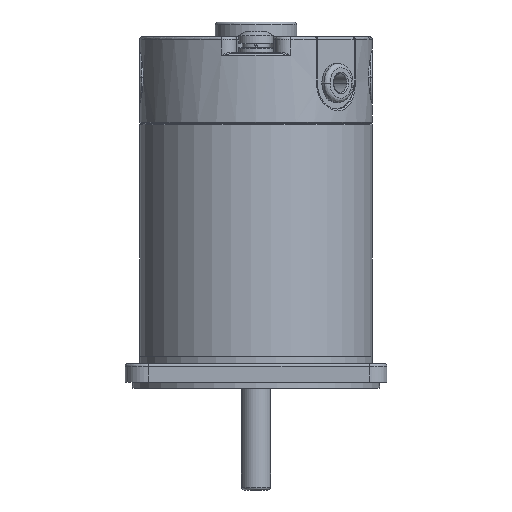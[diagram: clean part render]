
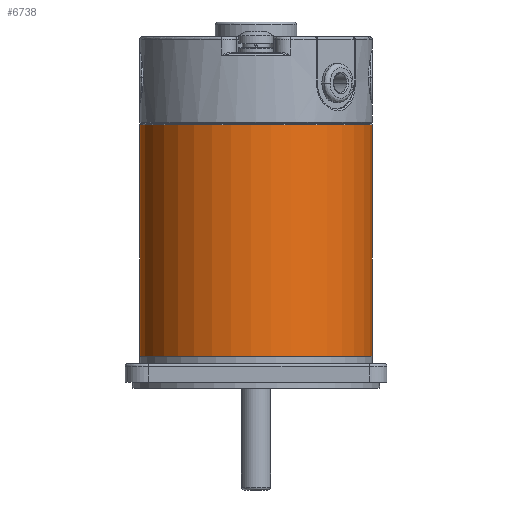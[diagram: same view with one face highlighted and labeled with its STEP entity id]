
A CAD part, left-side view. The second image highlights one B-rep face of the part: STEP entity #6738.
In plain terms, the highlighted cylindrical face has radius 40 mm (diameter 80 mm), a partial arc.
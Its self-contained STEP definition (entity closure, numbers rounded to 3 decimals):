
#502 = DIRECTION ( 'NONE',  ( 0., -1., 0. ) ) ;
#1271 = VERTEX_POINT ( 'NONE', #11905 ) ;
#1887 = CIRCLE ( 'NONE', #4653, 40. ) ;
#1907 = DIRECTION ( 'NONE',  ( 0., 0., 1. ) ) ;
#2519 = CARTESIAN_POINT ( 'NONE',  ( 0., 80., 0. ) ) ;
#3586 = VERTEX_POINT ( 'NONE', #10959 ) ;
#4080 = CARTESIAN_POINT ( 'NONE',  ( 0., 80., 40. ) ) ;
#4152 = FACE_OUTER_BOUND ( 'NONE', #12991, .T. ) ;
#4224 = VERTEX_POINT ( 'NONE', #4080 ) ;
#4653 = AXIS2_PLACEMENT_3D ( 'NONE', #5098, #10174, #1907 ) ;
#5022 = DIRECTION ( 'NONE',  ( 0., 1., 0. ) ) ;
#5091 = LINE ( 'NONE', #10285, #7723 ) ;
#5098 = CARTESIAN_POINT ( 'NONE',  ( 0., 0.3, 0. ) ) ;
#5588 = ORIENTED_EDGE ( 'NONE', *, *, #11889, .T. ) ;
#5923 = ORIENTED_EDGE ( 'NONE', *, *, #8949, .T. ) ;
#6007 = ORIENTED_EDGE ( 'NONE', *, *, #12840, .F. ) ;
#6016 = CARTESIAN_POINT ( 'NONE',  ( 0., 0.3, 0. ) ) ;
#6205 = DIRECTION ( 'NONE',  ( 0., 1., 0. ) ) ;
#6674 = ORIENTED_EDGE ( 'NONE', *, *, #9718, .T. ) ;
#6738 = ADVANCED_FACE ( 'NONE', ( #4152 ), #8223, .T. ) ;
#6741 = VERTEX_POINT ( 'NONE', #12751 ) ;
#7086 = ORIENTED_EDGE ( 'NONE', *, *, #8246, .T. ) ;
#7408 = AXIS2_PLACEMENT_3D ( 'NONE', #8342, #10339, #8280 ) ;
#7667 = CARTESIAN_POINT ( 'NONE',  ( 0., 0.3, -40. ) ) ;
#7723 = VECTOR ( 'NONE', #6205, 1000. ) ;
#7872 = AXIS2_PLACEMENT_3D ( 'NONE', #6016, #5022, #10277 ) ;
#8223 = CYLINDRICAL_SURFACE ( 'NONE', #7408, 40. ) ;
#8246 = EDGE_CURVE ( 'NONE', #6741, #3586, #9151, .T. ) ;
#8280 = DIRECTION ( 'NONE',  ( 0., 0., 1. ) ) ;
#8342 = CARTESIAN_POINT ( 'NONE',  ( 0., 0., 0. ) ) ;
#8796 = AXIS2_PLACEMENT_3D ( 'NONE', #2519, #502, #12679 ) ;
#8822 = VERTEX_POINT ( 'NONE', #7667 ) ;
#8949 = EDGE_CURVE ( 'NONE', #3586, #8822, #1887, .T. ) ;
#9151 = CIRCLE ( 'NONE', #7872, 40. ) ;
#9613 = DIRECTION ( 'NONE',  ( 0., 1., 0. ) ) ;
#9718 = EDGE_CURVE ( 'NONE', #1271, #4224, #10278, .T. ) ;
#10174 = DIRECTION ( 'NONE',  ( 0., 1., 0. ) ) ;
#10277 = DIRECTION ( 'NONE',  ( 0., 0., 1. ) ) ;
#10278 = CIRCLE ( 'NONE', #8796, 40. ) ;
#10285 = CARTESIAN_POINT ( 'NONE',  ( 0., 0., -40. ) ) ;
#10339 = DIRECTION ( 'NONE',  ( 0., 1., 0. ) ) ;
#10959 = CARTESIAN_POINT ( 'NONE',  ( 40., 0.3, 0. ) ) ;
#11359 = LINE ( 'NONE', #11554, #11743 ) ;
#11554 = CARTESIAN_POINT ( 'NONE',  ( 0., 0., 40. ) ) ;
#11743 = VECTOR ( 'NONE', #9613, 1000. ) ;
#11889 = EDGE_CURVE ( 'NONE', #8822, #1271, #5091, .T. ) ;
#11905 = CARTESIAN_POINT ( 'NONE',  ( 0., 80., -40. ) ) ;
#12679 = DIRECTION ( 'NONE',  ( 0., 0., 1. ) ) ;
#12751 = CARTESIAN_POINT ( 'NONE',  ( 0., 0.3, 40. ) ) ;
#12840 = EDGE_CURVE ( 'NONE', #6741, #4224, #11359, .T. ) ;
#12991 = EDGE_LOOP ( 'NONE', ( #5923, #5588, #6674, #6007, #7086 ) ) ;
